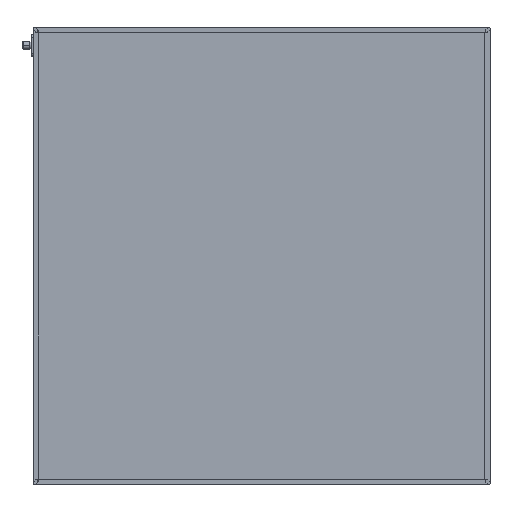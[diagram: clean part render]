
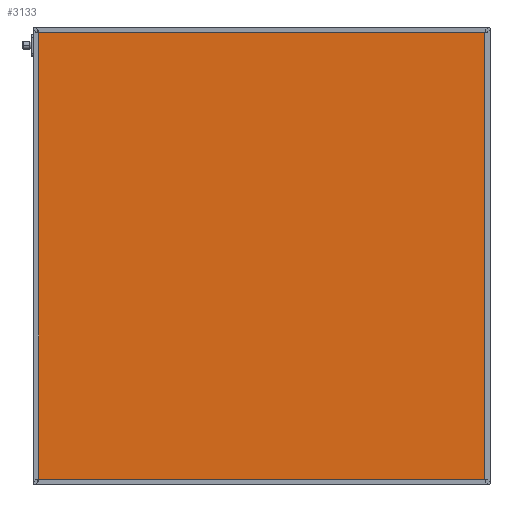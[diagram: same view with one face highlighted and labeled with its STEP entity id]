
A CAD part, top view. The second image highlights one B-rep face of the part: STEP entity #3133.
In plain terms, the highlighted planar face has unit normal (0, 0, 1).
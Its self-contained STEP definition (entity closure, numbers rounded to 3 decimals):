
#514 = CARTESIAN_POINT ( 'NONE',  ( 4., 696., 41.85 ) ) ;
#1155 = EDGE_CURVE ( 'NONE', #14933, #15589, #2975, .T. ) ;
#1485 = DIRECTION ( 'NONE',  ( 1., 0., 0. ) ) ;
#2213 = ORIENTED_EDGE ( 'NONE', *, *, #3290, .T. ) ;
#2860 = ORIENTED_EDGE ( 'NONE', *, *, #11486, .T. ) ;
#2975 = LINE ( 'NONE', #11060, #9308 ) ;
#2984 = VERTEX_POINT ( 'NONE', #7141 ) ;
#3133 = ADVANCED_FACE ( 'NONE', ( #4161 ), #6766, .F. ) ;
#3186 = DIRECTION ( 'NONE',  ( 0., 1., 0. ) ) ;
#3290 = EDGE_CURVE ( 'NONE', #11621, #14933, #5796, .T. ) ;
#3617 = EDGE_LOOP ( 'NONE', ( #2213, #10681, #2860, #8726 ) ) ;
#4075 = DIRECTION ( 'NONE',  ( 0., 0., -1. ) ) ;
#4161 = FACE_OUTER_BOUND ( 'NONE', #3617, .T. ) ;
#4745 = CARTESIAN_POINT ( 'NONE',  ( 4., 0., 41.85 ) ) ;
#5796 = LINE ( 'NONE', #8243, #12343 ) ;
#6687 = DIRECTION ( 'NONE',  ( -1., 0., 0. ) ) ;
#6766 = PLANE ( 'NONE',  #15694 ) ;
#7141 = CARTESIAN_POINT ( 'NONE',  ( 4., 4., 41.85 ) ) ;
#7835 = VECTOR ( 'NONE', #1485, 1000. ) ;
#8243 = CARTESIAN_POINT ( 'NONE',  ( 696., 0., 41.85 ) ) ;
#8274 = LINE ( 'NONE', #14636, #7835 ) ;
#8726 = ORIENTED_EDGE ( 'NONE', *, *, #15461, .T. ) ;
#9308 = VECTOR ( 'NONE', #12199, 1000. ) ;
#10399 = CARTESIAN_POINT ( 'NONE',  ( 696., 4., 41.85 ) ) ;
#10681 = ORIENTED_EDGE ( 'NONE', *, *, #1155, .T. ) ;
#11060 = CARTESIAN_POINT ( 'NONE',  ( 0., 696., 41.85 ) ) ;
#11272 = LINE ( 'NONE', #4745, #14697 ) ;
#11486 = EDGE_CURVE ( 'NONE', #15589, #2984, #11272, .T. ) ;
#11621 = VERTEX_POINT ( 'NONE', #10399 ) ;
#12199 = DIRECTION ( 'NONE',  ( -1., 0., 0. ) ) ;
#12343 = VECTOR ( 'NONE', #3186, 1000. ) ;
#12936 = CARTESIAN_POINT ( 'NONE',  ( 696., 696., 41.85 ) ) ;
#14636 = CARTESIAN_POINT ( 'NONE',  ( 0., 4., 41.85 ) ) ;
#14697 = VECTOR ( 'NONE', #15280, 1000. ) ;
#14933 = VERTEX_POINT ( 'NONE', #12936 ) ;
#15280 = DIRECTION ( 'NONE',  ( 0., -1., 0. ) ) ;
#15461 = EDGE_CURVE ( 'NONE', #2984, #11621, #8274, .T. ) ;
#15586 = CARTESIAN_POINT ( 'NONE',  ( 0., 0., 41.85 ) ) ;
#15589 = VERTEX_POINT ( 'NONE', #514 ) ;
#15694 = AXIS2_PLACEMENT_3D ( 'NONE', #15586, #4075, #6687 ) ;
